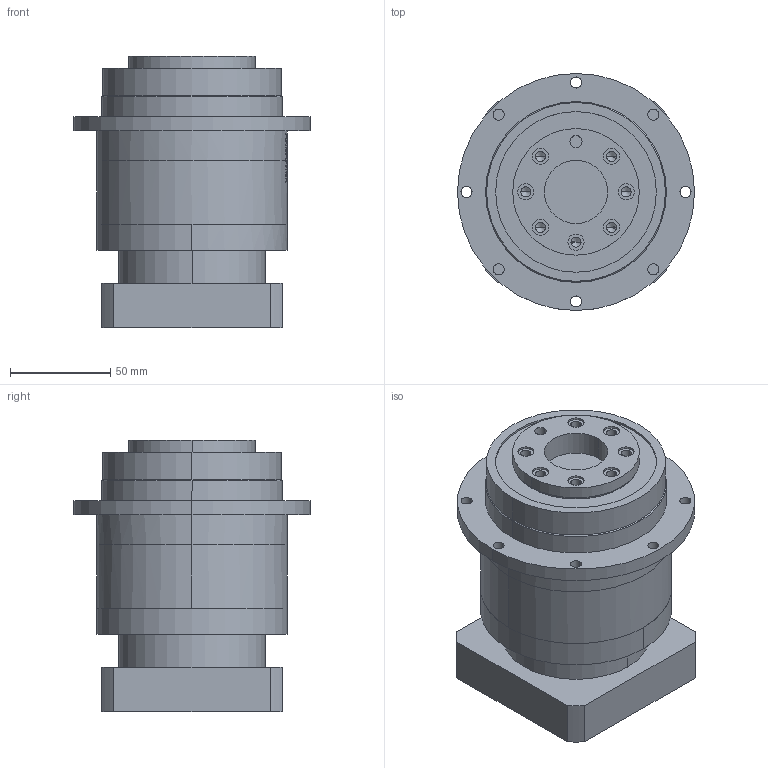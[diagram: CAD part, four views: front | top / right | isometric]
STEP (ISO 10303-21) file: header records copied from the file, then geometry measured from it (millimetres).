
FILE_DESCRIPTION (( 'STEP AP203' ), '1' );
FILE_NAME ('PLX90-L2-14-73-98.4.STEP', '2022-07-05T08:19:11', ( 'Windows User' ), ( 'P R C' ), 'SwSTEP 2.0', 'SolidWorks 2016', '' );
FILE_SCHEMA (( 'CONFIG_CONTROL_DESIGN' ));
Length unit declared in the file: millimetre
Products named in the file (6): PG90 内齿圈_一级加二级内齿圈; 囀鞠褒蹟佪-M6x16; PG90 窣諉啣-73-M5-98.4-LR43; 粣創-6006 30x55x13; PLX90-L2-14-73-98.4; PG90 媼撰狟屳啣-14
Assembly tree (5 placements, depth 2):
  PLX90-L2-14-73-98.4
    PG90 媼撰狟屳啣-14
    PG90 内齿圈_一级加二级内齿圈
    囀鞠褒蹟佪-M6x16
    PG90 窣諉啣-73-M5-98.4-LR43
    粣創-6006 30x55x13
Bounding box: 118 x 118 x 135 mm (x, y, z)
Volume: 823388.6 mm3; surface area: 152536.9 mm2
Topology: 6 solids, 7 shells, 1197 faces, 3197 edges, 2094 vertices
Faces by surface type: plane 597, bspline 296, cylinder 262, cone 42
Entity records: 48783 total; most frequent: CARTESIAN_POINT 20037, ORIENTED_EDGE 6318, DIRECTION 5055, EDGE_CURVE 3159, VERTEX_POINT 2094, AXIS2_PLACEMENT_3D 1729, LINE 1597, VECTOR 1597
